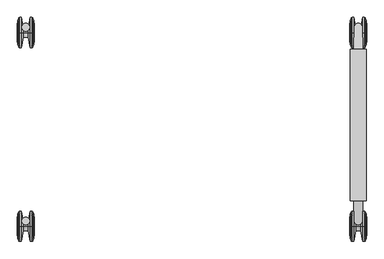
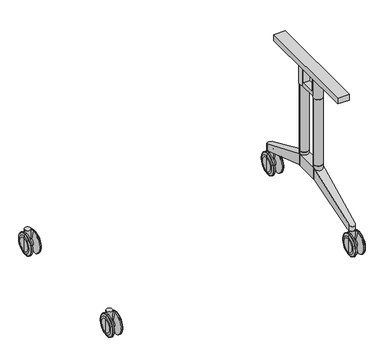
"""IFC4 building model written with IfcOpenShell, lengths in millimetres: furniture geometry, Furniture_Wilkhahn_614-00_TimetableShift : TIMETABLE SHIFT 614/00 1600L x 0800W."""

from ifc_helpers import new_model, si_unit, point, frame, frame_2d, origin, place, context, project, spatial, polyline, circle_curve, ellipse_curve, trimmed, segment, composite_curve, outline, extrude, source, transform, mapped, element, save
from ifc_brep_helpers import plane_surface, cylinder_surface, revolved_surface, advanced_brep


def furniture_4abeb202(model_context):
    return source(origin(), model_context, "Body", "SolidModel", [
        advanced_brep(
        [(577.500346, 204.1135107, 49.9999988), (577.500346, 204.1135107, 19.8683152), (577.500346, 204.1135107, 80.1316828), (522.5003238, 204.1135107, 19.8683152), (522.5003238, 204.1135107, 49.9999988), (522.5003238, 204.1135107, 80.1316828), (526.8165382, 204.1135107, 2.051318), (524.0398166, 204.1135107, 10.381507), (524.0398166, 204.1135107, 89.6184911), (526.8165382, 204.1135107, 97.9486801), (534.500318, 204.1135107, -1.2e-06), (529.6625889, 204.1135107, -1.2e-06), (529.6625889, 204.1135107, 99.9999992), (534.500318, 204.1135107, 99.9999992), (542.5003021, 204.1135107, 35.0000003), (542.5003021, 204.1135107, 64.9999978), (557.5003676, 204.1135107, 35.0000003), (557.5003676, 204.1135107, 64.9999978), (565.5003517, 204.1135107, -1.2e-06), (565.5003517, 204.1135107, 99.9999992), (570.3380808, 204.1135107, -1.2e-06), (570.3380808, 204.1135107, 99.9999992), (575.9608532, 204.1135107, 10.381507), (573.1841316, 204.1135107, 2.051318), (573.1841316, 204.1135107, 97.9486801), (575.9608532, 204.1135107, 89.6184911)],
        [
            (0, 1),
            (1, 2, circle_curve(frame((577.500346, 204.1135107, 49.999999), z_axis=(1.0, 0.0, 0.0), x_axis=(0.0, 0.0, 1.0)), 30.1316838)),
            (2, 0),
            (2, 1, circle_curve(frame((577.500346, 204.1135107, 49.999999), z_axis=(1.0, 0.0, 0.0), x_axis=(0.0, 0.0, 1.0)), 30.1316838)),
            (3, 4),
            (4, 5),
            (5, 3, circle_curve(frame((522.5003238, 204.1135107, 49.999999), z_axis=(-1.0, 0.0, 0.0), x_axis=(0.0, 0.0, 1.0)), 30.1316838)),
            (3, 5, circle_curve(frame((522.5003238, 204.1135107, 49.999999), z_axis=(-1.0, 0.0, 0.0), x_axis=(0.0, 0.0, 1.0)), 30.1316838)),
            (6, 7),
            (7, 8, circle_curve(frame((524.0398166, 204.1135107, 49.999999), z_axis=(1.0, 0.0, 0.0), x_axis=(0.0, 0.0, 1.0)), 39.618492)),
            (8, 9),
            (9, 6, circle_curve(frame((526.8165382, 204.1135107, 49.999999), z_axis=(-1.0, 0.0, 0.0), x_axis=(0.0, 0.0, 1.0)), 47.948681)),
            (8, 7, circle_curve(frame((524.0398166, 204.1135107, 49.999999), z_axis=(1.0, 0.0, 0.0), x_axis=(0.0, 0.0, 1.0)), 39.618492)),
            (6, 9, circle_curve(frame((526.8165382, 204.1135107, 49.999999), z_axis=(-1.0, 0.0, 0.0), x_axis=(0.0, 0.0, 1.0)), 47.948681)),
            (10, 11),
            (11, 12, circle_curve(frame((529.6625889, 204.1135107, 49.999999), z_axis=(1.0, 0.0, 0.0), x_axis=(0.0, 0.0, 1.0)), 50.0000002)),
            (12, 13),
            (13, 10, circle_curve(frame((534.500318, 204.1135107, 49.999999), z_axis=(-1.0, 0.0, 0.0), x_axis=(0.0, 0.0, 1.0)), 50.0000002)),
            (12, 11, circle_curve(frame((529.6625889, 204.1135107, 49.999999), z_axis=(1.0, 0.0, 0.0), x_axis=(0.0, 0.0, 1.0)), 50.0000002)),
            (10, 13, circle_curve(frame((534.500318, 204.1135107, 49.999999), z_axis=(-1.0, 0.0, 0.0), x_axis=(0.0, 0.0, 1.0)), 50.0000002)),
            (14, 10),
            (13, 15),
            (15, 14, circle_curve(frame((542.5003021, 204.1135107, 49.999999), z_axis=(-1.0, 0.0, 0.0), x_axis=(0.0, 0.0, 1.0)), 14.9999987)),
            (14, 15, circle_curve(frame((542.5003021, 204.1135107, 49.999999), z_axis=(-1.0, 0.0, 0.0), x_axis=(0.0, 0.0, 1.0)), 14.9999987)),
            (16, 14),
            (15, 17),
            (17, 16, circle_curve(frame((557.5003676, 204.1135107, 49.999999), z_axis=(-1.0, 0.0, 0.0), x_axis=(0.0, 0.0, 1.0)), 14.9999987)),
            (16, 17, circle_curve(frame((557.5003676, 204.1135107, 49.999999), z_axis=(-1.0, 0.0, 0.0), x_axis=(0.0, 0.0, 1.0)), 14.9999987)),
            (18, 16),
            (17, 19),
            (19, 18, circle_curve(frame((565.5003517, 204.1135107, 49.999999), z_axis=(-1.0, 0.0, 0.0), x_axis=(0.0, 0.0, 1.0)), 50.0000002)),
            (18, 19, circle_curve(frame((565.5003517, 204.1135107, 49.999999), z_axis=(-1.0, 0.0, 0.0), x_axis=(0.0, 0.0, 1.0)), 50.0000002)),
            (20, 18),
            (19, 21),
            (21, 20, circle_curve(frame((570.3380808, 204.1135107, 49.999999), z_axis=(-1.0, 0.0, 0.0), x_axis=(0.0, 0.0, 1.0)), 50.0000002)),
            (20, 21, circle_curve(frame((570.3380808, 204.1135107, 49.999999), z_axis=(-1.0, 0.0, 0.0), x_axis=(0.0, 0.0, 1.0)), 50.0000002)),
            (22, 23),
            (23, 24, circle_curve(frame((573.1841316, 204.1135107, 49.999999), z_axis=(1.0, 0.0, 0.0), x_axis=(0.0, 0.0, 1.0)), 47.948681)),
            (24, 25),
            (25, 22, circle_curve(frame((575.9608532, 204.1135107, 49.999999), z_axis=(-1.0, 0.0, 0.0), x_axis=(0.0, 0.0, 1.0)), 39.618492)),
            (24, 23, circle_curve(frame((573.1841316, 204.1135107, 49.999999), z_axis=(1.0, 0.0, 0.0), x_axis=(0.0, 0.0, 1.0)), 47.948681)),
            (22, 25, circle_curve(frame((575.9608532, 204.1135107, 49.999999), z_axis=(-1.0, 0.0, 0.0), x_axis=(0.0, 0.0, 1.0)), 39.618492)),
            (7, 3, circle_curve(frame((552.5003238, 204.1135107, 19.8683152), z_axis=(0.0, 1.0000000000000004, 0.0), x_axis=(-1.0000000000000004, 0.0, 0.0)), 30.0)),
            (5, 8, circle_curve(frame((552.5003238, 204.1135107, 80.1316828), z_axis=(0.0, 1.0000000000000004, 0.0), x_axis=(-1.0000000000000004, 0.0, 0.0)), 30.0)),
            (11, 6, circle_curve(frame((529.6625889, 204.1135107, 2.9999988), z_axis=(0.0, 1.0000000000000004, 0.0), x_axis=(-1.0000000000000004, 0.0, 0.0)), 3.0)),
            (9, 12, circle_curve(frame((529.6625889, 204.1135107, 96.9999992), z_axis=(0.0, 1.0000000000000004, 0.0), x_axis=(-1.0000000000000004, 0.0, 0.0)), 3.0)),
            (23, 20, circle_curve(frame((570.3380808, 204.1135107, 2.9999988), z_axis=(0.0, 1.0000000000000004, 0.0), x_axis=(-1.0000000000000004, 0.0, 0.0)), 3.0)),
            (21, 24, circle_curve(frame((570.3380808, 204.1135107, 96.9999992), z_axis=(0.0, 1.0000000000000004, 0.0), x_axis=(-1.0000000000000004, 0.0, 0.0)), 3.0)),
            (1, 22, circle_curve(frame((547.500346, 204.1135107, 19.8683152), z_axis=(0.0, 1.0000000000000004, 0.0), x_axis=(-1.0000000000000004, 0.0, 0.0)), 30.0)),
            (25, 2, circle_curve(frame((547.500346, 204.1135107, 80.1316828), z_axis=(0.0, 1.0000000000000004, 0.0), x_axis=(-1.0000000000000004, 0.0, 0.0)), 30.0)),
        ],
        [
            plane_surface(frame((577.500346, 204.1135107, 49.999999), z_axis=(1.0, 0.0, 0.0), x_axis=(0.0, 0.0, 1.0))),
            plane_surface(frame((522.5003238, 204.1135107, 49.999999), z_axis=(-1.0, 0.0, 0.0), x_axis=(0.0, 0.0, 1.0))),
            revolved_surface(polyline([(524.0398166, 204.1135107, 89.6184911), (526.8165382, 204.1135107, 97.9486801)]), (589.0660385, 204.1135107, 49.999999), (1.0000000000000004, 0.0, 0.0)),
            cylinder_surface(frame((589.0660385, 204.1135107, 49.999999), z_axis=(1.0000000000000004, 0.0, 0.0), x_axis=(0.0, 0.0, 1.0)), 50.0000002),
            revolved_surface(polyline([(534.500318, 204.1135107, 99.9999992), (542.5003021, 204.1135107, 64.9999978)]), (589.0660385, 204.1135107, 49.999999), (1.0000000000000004, 0.0, 0.0)),
            cylinder_surface(frame((589.0660385, 204.1135107, 49.999999), z_axis=(1.0000000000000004, 0.0, 0.0), x_axis=(0.0, 0.0, 1.0)), 14.9999987),
            revolved_surface(polyline([(557.5003676, 204.1135107, 64.9999978), (565.5003517, 204.1135107, 99.9999992)]), (589.0660385, 204.1135107, 49.999999), (1.0000000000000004, 0.0, 0.0)),
            revolved_surface(polyline([(573.1841316, 204.1135107, 97.9486801), (575.9608532, 204.1135107, 89.6184911)]), (589.0660385, 204.1135107, 49.999999), (1.0000000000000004, 0.0, 0.0)),
            revolved_surface(trimmed(ellipse_curve(frame((552.5003238, 204.1135107, 80.1316828), z_axis=(0.0, 1.0000000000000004, 0.0), x_axis=(-1.0000000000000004, 0.0, 0.0)), 30.0, 30.0), [point((522.5003238, 204.1135107, 80.1316828))], [point((524.0398166, 204.1135107, 89.6184911))], True, "CARTESIAN"), (589.0660385, 204.1135107, 49.999999), (1.0000000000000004, 0.0, 0.0)),
            revolved_surface(trimmed(ellipse_curve(frame((529.6625889, 204.1135107, 96.9999992), z_axis=(0.0, 1.0000000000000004, 0.0), x_axis=(-1.0000000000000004, 0.0, 0.0)), 3.0, 3.0), [point((526.8165382, 204.1135107, 97.9486801))], [point((529.6625889, 204.1135107, 99.9999992))], True, "CARTESIAN"), (589.0660385, 204.1135107, 49.999999), (1.0000000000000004, 0.0, 0.0)),
            revolved_surface(trimmed(ellipse_curve(frame((570.3380808, 204.1135107, 96.9999992), z_axis=(0.0, 1.0000000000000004, 0.0), x_axis=(-1.0000000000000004, 0.0, 0.0)), 3.0, 3.0), [point((570.3380808, 204.1135107, 99.9999992))], [point((573.1841316, 204.1135107, 97.9486801))], True, "CARTESIAN"), (589.0660385, 204.1135107, 49.999999), (1.0000000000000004, 0.0, 0.0)),
            revolved_surface(trimmed(ellipse_curve(frame((547.500346, 204.1135107, 80.1316828), z_axis=(0.0, 1.0000000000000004, 0.0), x_axis=(-1.0000000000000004, 0.0, 0.0)), 30.0, 30.0), [point((575.9608532, 204.1135107, 89.6184911))], [point((577.500346, 204.1135107, 80.1316828))], True, "CARTESIAN"), (589.0660385, 204.1135107, 49.999999), (1.0000000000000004, 0.0, 0.0)),
        ],
        [
            (0, [[1, 2, 3]]),
            (0, [[-3, 4, -1]]),
            (1, [[5, 6, 7]]),
            (1, [[-6, -5, 8]]),
            (2, [[9, 10, 11, 12]]),
            (2, [[-11, 13, -9, 14]]),
            (3, [[15, 16, 17, 18]]),
            (3, [[-17, 19, -15, 20]]),
            (4, [[21, -18, 22, 23]]),
            (4, [[-22, -20, -21, 24]]),
            (5, [[25, -23, 26, 27]]),
            (5, [[-26, -24, -25, 28]]),
            (6, [[29, -27, 30, 31]]),
            (6, [[-30, -28, -29, 32]]),
            (3, [[33, -31, 34, 35]]),
            (3, [[-34, -32, -33, 36]]),
            (7, [[37, 38, 39, 40]]),
            (7, [[-39, 41, -37, 42]]),
            (8, [[43, -7, 44, -10]]),
            (8, [[-44, -8, -43, -13]]),
            (9, [[45, -12, 46, -16]]),
            (9, [[-46, -14, -45, -19]]),
            (10, [[47, -35, 48, -38]]),
            (10, [[-48, -36, -47, -41]]),
            (11, [[49, -40, 50, -2]]),
            (11, [[-50, -42, -49, -4]]),
        ],
    ),
        extrude(outline(composite_curve([segment(trimmed(circle_curve(frame_2d((550.0003349, 221.5135103)), 13.1), [point((563.1003349, 221.5135103))], [point((536.9003349, 221.5135103))], False, "CARTESIAN"), True, "CONTINUOUS"), segment(trimmed(circle_curve(frame_2d((550.0003349, 221.5135103)), 13.1), [point((536.9003349, 221.5135103))], [point((563.1003349, 221.5135103))], False, "CARTESIAN"), True, "CONTINUOUS")], self_intersect=False)), frame((0.0, 0.0, 50.0), z_axis=(0.0, 0.0, 1.0), x_axis=(1.0, 0.0, 0.0)), (0.0, 0.0, 1.0), 55.0),
        advanced_brep(
        [(522.5003238, -436.9185854, 49.9999992), (522.5003238, -436.9185854, 80.1316828), (522.5003238, -436.9185854, 19.8683152), (577.500346, -436.9185854, 19.8683152), (577.500346, -436.9185854, 80.1316828), (577.500346, -436.9185854, 49.9999992), (573.1841316, -436.9185854, 2.051318), (573.1841316, -436.9185854, 97.9486801), (575.9608532, -436.9185854, 89.6184911), (575.9608532, -436.9185854, 10.381507), (565.5003517, -436.9185854, -1.2e-06), (565.5003517, -436.9185854, 99.9999992), (570.3380808, -436.9185854, 99.9999992), (570.3380808, -436.9185854, -1.2e-06), (557.5003676, -436.9185854, 35.0000003), (557.5003676, -436.9185854, 64.9999978), (542.5003021, -436.9185854, 35.0000003), (542.5003021, -436.9185854, 64.9999978), (534.500318, -436.9185854, -1.2e-06), (534.500318, -436.9185854, 99.9999992), (529.6625889, -436.9185854, -1.2e-06), (529.6625889, -436.9185854, 99.9999992), (524.0398166, -436.9185854, 10.381507), (524.0398166, -436.9185854, 89.6184911), (526.8165382, -436.9185854, 97.9486801), (526.8165382, -436.9185854, 2.051318)],
        [
            (0, 1),
            (1, 2, circle_curve(frame((522.5003238, -436.9185854, 49.999999), z_axis=(-1.0, 0.0, 0.0), x_axis=(0.0, 0.0, 1.0)), 30.1316838)),
            (2, 0),
            (2, 1, circle_curve(frame((522.5003238, -436.9185854, 49.999999), z_axis=(-1.0, 0.0, 0.0), x_axis=(0.0, 0.0, 1.0)), 30.1316838)),
            (3, 4, circle_curve(frame((577.500346, -436.9185854, 49.999999), z_axis=(1.0, 0.0, 0.0), x_axis=(0.0, 0.0, 1.0)), 30.1316838)),
            (4, 5),
            (5, 3),
            (4, 3, circle_curve(frame((577.500346, -436.9185854, 49.999999), z_axis=(1.0, 0.0, 0.0), x_axis=(0.0, 0.0, 1.0)), 30.1316838)),
            (6, 7, circle_curve(frame((573.1841316, -436.9185854, 49.999999), z_axis=(1.0, 0.0, 0.0), x_axis=(0.0, 0.0, 1.0)), 47.948681)),
            (7, 8),
            (8, 9, circle_curve(frame((575.9608532, -436.9185854, 49.999999), z_axis=(-1.0, 0.0, 0.0), x_axis=(0.0, 0.0, 1.0)), 39.618492)),
            (9, 6),
            (7, 6, circle_curve(frame((573.1841316, -436.9185854, 49.999999), z_axis=(1.0, 0.0, 0.0), x_axis=(0.0, 0.0, 1.0)), 47.948681)),
            (9, 8, circle_curve(frame((575.9608532, -436.9185854, 49.999999), z_axis=(-1.0, 0.0, 0.0), x_axis=(0.0, 0.0, 1.0)), 39.618492)),
            (10, 11, circle_curve(frame((565.5003517, -436.9185854, 49.999999), z_axis=(1.0, 0.0, 0.0), x_axis=(0.0, 0.0, 1.0)), 50.0000002)),
            (11, 12),
            (12, 13, circle_curve(frame((570.3380808, -436.9185854, 49.999999), z_axis=(-1.0, 0.0, 0.0), x_axis=(0.0, 0.0, 1.0)), 50.0000002)),
            (13, 10),
            (11, 10, circle_curve(frame((565.5003517, -436.9185854, 49.999999), z_axis=(1.0, 0.0, 0.0), x_axis=(0.0, 0.0, 1.0)), 50.0000002)),
            (13, 12, circle_curve(frame((570.3380808, -436.9185854, 49.999999), z_axis=(-1.0, 0.0, 0.0), x_axis=(0.0, 0.0, 1.0)), 50.0000002)),
            (14, 15, circle_curve(frame((557.5003676, -436.9185854, 49.999999), z_axis=(1.0, 0.0, 0.0), x_axis=(0.0, 0.0, 1.0)), 14.9999987)),
            (15, 11),
            (10, 14),
            (15, 14, circle_curve(frame((557.5003676, -436.9185854, 49.999999), z_axis=(1.0, 0.0, 0.0), x_axis=(0.0, 0.0, 1.0)), 14.9999987)),
            (16, 17, circle_curve(frame((542.5003021, -436.9185854, 49.999999), z_axis=(1.0, 0.0, 0.0), x_axis=(0.0, 0.0, 1.0)), 14.9999987)),
            (17, 15),
            (14, 16),
            (17, 16, circle_curve(frame((542.5003021, -436.9185854, 49.999999), z_axis=(1.0, 0.0, 0.0), x_axis=(0.0, 0.0, 1.0)), 14.9999987)),
            (18, 19, circle_curve(frame((534.500318, -436.9185854, 49.999999), z_axis=(1.0, 0.0, 0.0), x_axis=(0.0, 0.0, 1.0)), 50.0000002)),
            (19, 17),
            (16, 18),
            (19, 18, circle_curve(frame((534.500318, -436.9185854, 49.999999), z_axis=(1.0, 0.0, 0.0), x_axis=(0.0, 0.0, 1.0)), 50.0000002)),
            (20, 21, circle_curve(frame((529.6625889, -436.9185854, 49.999999), z_axis=(1.0, 0.0, 0.0), x_axis=(0.0, 0.0, 1.0)), 50.0000002)),
            (21, 19),
            (18, 20),
            (21, 20, circle_curve(frame((529.6625889, -436.9185854, 49.999999), z_axis=(1.0, 0.0, 0.0), x_axis=(0.0, 0.0, 1.0)), 50.0000002)),
            (22, 23, circle_curve(frame((524.0398166, -436.9185854, 49.999999), z_axis=(1.0, 0.0, 0.0), x_axis=(0.0, 0.0, 1.0)), 39.618492)),
            (23, 24),
            (24, 25, circle_curve(frame((526.8165382, -436.9185854, 49.999999), z_axis=(-1.0, 0.0, 0.0), x_axis=(0.0, 0.0, 1.0)), 47.948681)),
            (25, 22),
            (23, 22, circle_curve(frame((524.0398166, -436.9185854, 49.999999), z_axis=(1.0, 0.0, 0.0), x_axis=(0.0, 0.0, 1.0)), 39.618492)),
            (25, 24, circle_curve(frame((526.8165382, -436.9185854, 49.999999), z_axis=(-1.0, 0.0, 0.0), x_axis=(0.0, 0.0, 1.0)), 47.948681)),
            (8, 4, circle_curve(frame((547.500346, -436.9185854, 80.1316828), z_axis=(0.0, 1.0, 0.0), x_axis=(1.0, 0.0, 0.0)), 30.0)),
            (3, 9, circle_curve(frame((547.500346, -436.9185854, 19.8683152), z_axis=(0.0, 1.0, 0.0), x_axis=(1.0, 0.0, 0.0)), 30.0)),
            (12, 7, circle_curve(frame((570.3380808, -436.9185854, 96.9999992), z_axis=(0.0, 1.0, 0.0), x_axis=(1.0, 0.0, 0.0)), 3.0)),
            (6, 13, circle_curve(frame((570.3380808, -436.9185854, 2.9999988), z_axis=(0.0, 1.0, 0.0), x_axis=(1.0, 0.0, 0.0)), 3.0)),
            (24, 21, circle_curve(frame((529.6625889, -436.9185854, 96.9999992), z_axis=(0.0, 1.0, 0.0), x_axis=(1.0, 0.0, 0.0)), 3.0)),
            (20, 25, circle_curve(frame((529.6625889, -436.9185854, 2.9999988), z_axis=(0.0, 1.0, 0.0), x_axis=(1.0, 0.0, 0.0)), 3.0)),
            (1, 23, circle_curve(frame((552.5003238, -436.9185854, 80.1316828), z_axis=(0.0, 1.0, 0.0), x_axis=(1.0, 0.0, 0.0)), 30.0)),
            (22, 2, circle_curve(frame((552.5003238, -436.9185854, 19.8683152), z_axis=(0.0, 1.0, 0.0), x_axis=(1.0, 0.0, 0.0)), 30.0)),
        ],
        [
            plane_surface(frame((522.5003238, -436.9185854, 49.999999), z_axis=(-1.0, 0.0, 0.0), x_axis=(0.0, 0.0, 1.0))),
            plane_surface(frame((577.500346, -436.9185854, 49.999999), z_axis=(1.0, 0.0, 0.0), x_axis=(0.0, 0.0, 1.0))),
            revolved_surface(polyline([(575.9608532, -436.9185854, 89.6184911), (573.1841316, -436.9185854, 97.9486801)]), (510.9346312, -436.9185854, 49.999999), (-1.0, 0.0, 0.0)),
            cylinder_surface(frame((510.9346312, -436.9185854, 49.999999), z_axis=(-1.0, 0.0, 0.0), x_axis=(0.0, 0.0, 1.0)), 50.0000002),
            revolved_surface(polyline([(565.5003517, -436.9185854, 99.9999992), (557.5003676, -436.9185854, 64.9999978)]), (510.9346312, -436.9185854, 49.999999), (-1.0, 0.0, 0.0)),
            cylinder_surface(frame((510.9346312, -436.9185854, 49.999999), z_axis=(-1.0, 0.0, 0.0), x_axis=(0.0, 0.0, 1.0)), 14.9999987),
            revolved_surface(polyline([(542.5003021, -436.9185854, 64.9999978), (534.500318, -436.9185854, 99.9999992)]), (510.9346312, -436.9185854, 49.999999), (-1.0, 0.0, 0.0)),
            revolved_surface(polyline([(526.8165382, -436.9185854, 97.9486801), (524.0398166, -436.9185854, 89.6184911)]), (510.9346312, -436.9185854, 49.999999), (-1.0, 0.0, 0.0)),
            revolved_surface(trimmed(ellipse_curve(frame((547.500346, -436.9185854, 80.1316828), z_axis=(0.0, -1.0, 0.0), x_axis=(1.0, 0.0, 0.0)), 30.0, 30.0), [point((577.500346, -436.9185854, 80.1316828))], [point((575.9608532, -436.9185854, 89.6184911))], True, "CARTESIAN"), (510.9346312, -436.9185854, 49.999999), (-1.0, 0.0, 0.0)),
            revolved_surface(trimmed(ellipse_curve(frame((570.3380808, -436.9185854, 96.9999992), z_axis=(0.0, -1.0, 0.0), x_axis=(1.0, 0.0, 0.0)), 3.0, 3.0), [point((573.1841316, -436.9185854, 97.9486801))], [point((570.3380808, -436.9185854, 99.9999992))], True, "CARTESIAN"), (510.9346312, -436.9185854, 49.999999), (-1.0, 0.0, 0.0)),
            revolved_surface(trimmed(ellipse_curve(frame((529.6625889, -436.9185854, 96.9999992), z_axis=(0.0, -1.0, 0.0), x_axis=(1.0, 0.0, 0.0)), 3.0, 3.0), [point((529.6625889, -436.9185854, 99.9999992))], [point((526.8165382, -436.9185854, 97.9486801))], True, "CARTESIAN"), (510.9346312, -436.9185854, 49.999999), (-1.0, 0.0, 0.0)),
            revolved_surface(trimmed(ellipse_curve(frame((552.5003238, -436.9185854, 80.1316828), z_axis=(0.0, -1.0, 0.0), x_axis=(1.0, 0.0, 0.0)), 30.0, 30.0), [point((524.0398166, -436.9185854, 89.6184911))], [point((522.5003238, -436.9185854, 80.1316828))], True, "CARTESIAN"), (510.9346312, -436.9185854, 49.999999), (-1.0, 0.0, 0.0)),
        ],
        [
            (0, [[1, 2, 3]]),
            (0, [[-3, 4, -1]]),
            (1, [[5, 6, 7]]),
            (1, [[8, -7, -6]]),
            (2, [[9, 10, 11, 12]]),
            (2, [[13, -12, 14, -10]]),
            (3, [[15, 16, 17, 18]]),
            (3, [[19, -18, 20, -16]]),
            (4, [[21, 22, -15, 23]]),
            (4, [[24, -23, -19, -22]]),
            (5, [[25, 26, -21, 27]]),
            (5, [[28, -27, -24, -26]]),
            (6, [[29, 30, -25, 31]]),
            (6, [[32, -31, -28, -30]]),
            (3, [[33, 34, -29, 35]]),
            (3, [[36, -35, -32, -34]]),
            (7, [[37, 38, 39, 40]]),
            (7, [[41, -40, 42, -38]]),
            (8, [[-11, 43, -5, 44]]),
            (8, [[-14, -44, -8, -43]]),
            (9, [[-17, 45, -9, 46]]),
            (9, [[-20, -46, -13, -45]]),
            (10, [[-39, 47, -33, 48]]),
            (10, [[-42, -48, -36, -47]]),
            (11, [[-2, 49, -37, 50]]),
            (11, [[-4, -50, -41, -49]]),
        ],
    ),
        extrude(outline(composite_curve([segment(trimmed(circle_curve(frame_2d((550.0003349, -419.5185858)), 13.1), [point((536.9003349, -419.5185858))], [point((563.1003349, -419.5185858))], False, "CARTESIAN"), True, "CONTINUOUS"), segment(trimmed(circle_curve(frame_2d((550.0003349, -419.5185858)), 13.1), [point((563.1003349, -419.5185858))], [point((536.9003349, -419.5185858))], False, "CARTESIAN"), True, "CONTINUOUS")], self_intersect=False)), frame((0.0, 0.0, 50.0), z_axis=(0.0, 0.0, 1.0), x_axis=(1.0, 0.0, 0.0)), (0.0, 0.0, 1.0), 55.0),
        extrude(outline(composite_curve([segment(trimmed(circle_curve(frame_2d((550.0, -154.0488451)), 20.0), [point((530.0, -154.0488451))], [point((570.0, -154.0488451))], False, "CARTESIAN"), True, "CONTINUOUS"), segment(trimmed(circle_curve(frame_2d((550.0, -154.0488451)), 20.0), [point((570.0, -154.0488451))], [point((530.0, -154.0488451))], False, "CARTESIAN"), True, "CONTINUOUS")], self_intersect=False)), frame((0.0, 0.0, 193.3080085), z_axis=(0.0, 0.0, 1.0), x_axis=(1.0, 0.0, 0.0)), (0.0, 0.0, 1.0), 68.8536941),
        extrude(outline(composite_curve([segment(trimmed(circle_curve(frame_2d((550.0, -44.0488461)), 20.0), [point((530.0, -44.0488461))], [point((570.0, -44.0488461))], False, "CARTESIAN"), True, "CONTINUOUS"), segment(trimmed(circle_curve(frame_2d((550.0, -44.0488461)), 20.0), [point((570.0, -44.0488461))], [point((530.0, -44.0488461))], False, "CARTESIAN"), True, "CONTINUOUS")], self_intersect=False)), frame((0.0, 0.0, 193.3080085), z_axis=(0.0, 0.0, 1.0), x_axis=(1.0, 0.0, 0.0)), (0.0, 0.0, 1.0), 68.8536941),
        extrude(outline(composite_curve([segment(trimmed(circle_curve(frame_2d((550.0, -154.0488451)), 20.0), [point((530.0, -154.0488451))], [point((570.0, -154.0488451))], False, "CARTESIAN"), True, "CONTINUOUS"), segment(trimmed(circle_curve(frame_2d((550.0, -154.0488451)), 20.0), [point((570.0, -154.0488451))], [point((530.0, -154.0488451))], False, "CARTESIAN"), True, "CONTINUOUS")], self_intersect=False)), frame((0.0, 0.0, 262.1617027), z_axis=(0.0, 0.0, 1.0), x_axis=(1.0, 0.0, 0.0)), (0.0, 0.0, 1.0), 317.8382973),
        extrude(outline(composite_curve([segment(trimmed(circle_curve(frame_2d((550.0, -44.0488461)), 20.0), [point((530.0, -44.0488461))], [point((570.0, -44.0488461))], False, "CARTESIAN"), True, "CONTINUOUS"), segment(trimmed(circle_curve(frame_2d((550.0, -44.0488461)), 20.0), [point((570.0, -44.0488461))], [point((530.0, -44.0488461))], False, "CARTESIAN"), True, "CONTINUOUS")], self_intersect=False)), frame((0.0, 0.0, 262.1617027), z_axis=(0.0, 0.0, 1.0), x_axis=(1.0, 0.0, 0.0)), (0.0, 0.0, 1.0), 317.8382973),
        extrude(outline(polyline([(576.0000118, 147.9511612), (576.0000118, -352.0488426), (523.9999882, -352.0488426), (523.9999882, 147.9511612), (576.0000118, 147.9511612)])), frame((0.0, 0.0, 676.0000168), z_axis=(0.0, 0.0, 1.0), x_axis=(1.0, 0.0, 0.0)), (0.0, 0.0, 1.0), 27.9999624),
        advanced_brep(
        [(535.0001238, -140.8200278, 676.0000168), (565.0001095, -140.8201331, 676.0000168), (565.0001095, -134.0488456, 676.0000168), (535.0001238, -134.0488456, 676.0000168), (565.0001095, -57.2775581, 676.0000168), (535.0001238, -57.2776634, 676.0000168), (535.0001238, -64.0488456, 676.0000168), (565.0001095, -64.0488456, 676.0000168), (535.0001238, -57.2776634, 580.0), (565.0001095, -57.2775581, 580.0), (565.0001095, -140.8201331, 580.0), (535.0001238, -140.8200278, 580.0), (535.0001238, -134.0488456, 598.0000176), (535.0001238, -64.0488456, 598.0000176), (565.0001095, -64.0488456, 598.0000176), (565.0001095, -134.0488456, 598.0000176)],
        [
            (0, 1, circle_curve(frame((550.0000702, -154.0488451, 676.0000168), z_axis=(0.0, 0.0, 1.0), x_axis=(1.0, 0.0, 0.0)), 20.0)),
            (1, 2),
            (2, 3),
            (3, 0),
            (4, 5, circle_curve(frame((550.0000702, -44.0488461, 676.0000168), z_axis=(0.0, 0.0, 1.0), x_axis=(1.0, 0.0, 0.0)), 20.0)),
            (5, 6),
            (6, 7),
            (7, 4),
            (8, 9, circle_curve(frame((550.0000702, -44.0488461, 580.0), z_axis=(0.0, 0.0, -1.0), x_axis=(1.0, 0.0, 0.0)), 20.0)),
            (9, 10),
            (10, 11, circle_curve(frame((550.0000702, -154.0488451, 580.0), z_axis=(0.0, 0.0, -1.0), x_axis=(1.0, 0.0, 0.0)), 20.0)),
            (11, 8),
            (11, 0),
            (3, 12),
            (12, 13),
            (13, 6),
            (5, 8),
            (10, 1),
            (9, 4),
            (7, 14),
            (14, 15),
            (15, 2),
            (15, 12),
            (14, 13),
        ],
        [
            plane_surface(frame((535.0001238, -140.8200278, 676.0000168), z_axis=(0.0, 0.0, 1.0), x_axis=(0.0, -1.0, 0.0))),
            plane_surface(frame((535.0001238, -140.8200278, 580.0), z_axis=(0.0, 0.0, -1.0), x_axis=(0.0, 1.0, 0.0))),
            plane_surface(frame((535.0001238, -57.2776634, 676.0000168), z_axis=(-1.0, 0.0, 0.0), x_axis=(0.0, 0.0, -1.0))),
            cylinder_surface(frame((550.0000702, -154.0488451, 580.0), z_axis=(0.0, 0.0, 1.0), x_axis=(1.0, 0.0, 0.0)), 20.0),
            plane_surface(frame((565.0001095, -140.8201331, 676.0000168), z_axis=(1.0, 0.0, 0.0), x_axis=(0.0, 0.0, -1.0))),
            cylinder_surface(frame((550.0000702, -44.0488461, 580.0), z_axis=(0.0, 0.0, 1.0), x_axis=(1.0, 0.0, 0.0)), 20.0),
            plane_surface(frame((565.0001095, -134.0488456, 676.0000168), z_axis=(0.0, 1.0, 0.0), x_axis=(-1.0, 0.0, 0.0))),
            plane_surface(frame((565.0001095, -134.0488456, 598.0000176), z_axis=(0.0, 0.0, 1.0), x_axis=(-1.0, 0.0, 0.0))),
            plane_surface(frame((565.0001095, -64.0488456, 598.0000176), z_axis=(0.0, -1.0, 0.0), x_axis=(-1.0, 0.0, 0.0))),
        ],
        [
            (0, [[1, 2, 3, 4]]),
            (0, [[5, 6, 7, 8]]),
            (1, [[9, 10, 11, 12]]),
            (2, [[-12, 13, -4, 14, 15, 16, -6, 17]]),
            (3, [[-1, -13, -11, 18]]),
            (4, [[-10, 19, -8, 20, 21, 22, -2, -18]]),
            (5, [[-5, -19, -9, -17]]),
            (6, [[23, -14, -3, -22]]),
            (7, [[-23, -21, 24, -15]]),
            (8, [[-24, -20, -7, -16]]),
        ],
    ),
        advanced_brep(
        [(563.4728951, 208.4135103, 105.0), (536.527103, 208.4135103, 105.0), (536.8737706, 221.8222582, 105.0), (563.1262294, 221.8222564, 105.0), (536.8737706, 221.8222582, 133.4205559), (529.9999818, -44.0488461, 248.3080085), (569.9999818, -44.0488461, 248.3080085), (563.1262294, 221.8222564, 133.4205567), (569.7999588, -36.3121196, 193.3080085), (530.2000059, -36.3121196, 193.3080085), (563.1262294, -419.9199475, 133.4205567), (569.9999818, -154.0488451, 248.3080085), (529.9999818, -154.0488451, 248.3080085), (536.8737706, -419.9199493, 133.4205559), (563.1262294, -419.9199475, 105.0), (563.4728951, -406.5112014, 105.0), (569.7999588, -161.7855715, 193.3080085), (569.9999818, -154.0488451, 193.3080085), (536.8737706, -419.9199493, 105.0), (529.9999818, -154.0488451, 193.3080085), (530.2000059, -161.7855715, 193.3080085), (536.527103, -406.5112014, 105.0), (529.9999818, -44.0488461, 193.3080085), (569.9999818, -44.0488461, 193.3080085)],
        [
            (0, 1),
            (1, 2),
            (2, 3, circle_curve(frame((550.0, 221.4828948, 105.0), z_axis=(0.0, 0.0, -1.0), x_axis=(1.0, 0.0, 0.0)), 13.1306156)),
            (3, 0),
            (4, 5),
            (5, 6),
            (6, 7),
            (7, 4, ellipse_curve(frame((550.0, 221.4828948, 133.5672007), z_axis=(0.0, 0.3966672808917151, 0.9179624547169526), x_axis=(0.0, 0.9179624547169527, -0.39666728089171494)), 14.3040878, 13.1306156)),
            (0, 8),
            (8, 9),
            (9, 1),
            (10, 11),
            (11, 12),
            (12, 13),
            (13, 10, ellipse_curve(frame((550.0, -419.5805859, 133.5672007), z_axis=(0.0, -0.3966672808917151, 0.9179624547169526), x_axis=(0.0, -0.9179624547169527, -0.39666728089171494)), 14.3040878, 13.1306156)),
            (10, 14),
            (14, 15),
            (15, 16),
            (16, 17),
            (17, 11),
            (13, 18),
            (18, 14, circle_curve(frame((550.0, -419.5805859, 105.0), z_axis=(0.0, 0.0, 1.0), x_axis=(1.0, 0.0, 0.0)), 13.1306156)),
            (12, 19),
            (19, 20),
            (20, 21),
            (21, 18),
            (4, 2),
            (9, 22),
            (22, 5),
            (7, 3),
            (6, 23),
            (23, 8),
            (21, 15),
            (20, 16),
            (11, 6),
            (5, 12),
            (22, 19),
            (17, 23),
        ],
        [
            plane_surface(frame((571.3794585, 208.4135103, 105.0), z_axis=(0.0, 0.0, -1.0), x_axis=(-1.0, 0.0, 0.0))),
            plane_surface(frame((571.3794585, 235.9511544, 127.3152182), z_axis=(0.0, 0.3966672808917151, 0.9179624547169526), x_axis=(-1.0, 0.0, 0.0))),
            plane_surface(frame((571.3794585, -36.3121196, 193.3080085), z_axis=(0.0, -0.3394229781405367, -0.9406338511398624), x_axis=(-1.0, 0.0, 0.0))),
            plane_surface(frame((571.3794585, -154.0488451, 248.3080085), z_axis=(0.0, -0.3966672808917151, 0.9179624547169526), x_axis=(-1.0, 0.0, 0.0))),
            plane_surface(frame((569.9999818, -154.0488451, 249.0000084), z_axis=(0.9996659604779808, -0.025845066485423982, 0.0), x_axis=(0.0, 0.0, -1.0))),
            cylinder_surface(frame((550.0, -419.5805859, 90.0000025), z_axis=(0.0, 0.0, -1.0), x_axis=(1.0, 0.0, 0.0)), 13.1306156),
            plane_surface(frame((536.8737706, -419.9199493, 249.0000084), z_axis=(-0.9996659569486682, -0.025845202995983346, 0.0), x_axis=(0.0, 0.0, -1.0))),
            plane_surface(frame((529.9999818, -44.0488461, 249.0000084), z_axis=(-0.9996659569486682, 0.025845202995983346, 0.0), x_axis=(0.0, 0.0, -1.0))),
            cylinder_surface(frame((550.0, 221.4828948, 0.0), z_axis=(0.0, 0.0, -1.0), x_axis=(1.0, 0.0, 0.0)), 13.1306156),
            plane_surface(frame((563.1262294, 221.8222564, 249.0000084), z_axis=(0.9996659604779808, 0.025845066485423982, 0.0), x_axis=(0.0, 0.0, -1.0))),
            plane_surface(frame((571.3794585, -434.0488456, 105.0), z_axis=(0.0, 0.0, -1.0), x_axis=(-1.0, 0.0, 0.0))),
            plane_surface(frame((571.3794585, -406.5112014, 105.0), z_axis=(0.0, 0.3394229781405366, -0.9406338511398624), x_axis=(-1.0, 0.0, 0.0))),
            plane_surface(frame((569.9999818, -44.0488461, 248.3080085), z_axis=(0.0, 0.0, 1.0), x_axis=(0.0, 1.0, 0.0))),
            plane_surface(frame((529.9999818, -44.0488461, 248.3080085), z_axis=(-1.0, 0.0, 0.0), x_axis=(0.0, 0.0, -1.0))),
            plane_surface(frame((569.9999818, -154.0488451, 248.3080085), z_axis=(1.0, 0.0, 0.0), x_axis=(0.0, 0.0, -1.0))),
            plane_surface(frame((571.3794585, -44.0488461, 193.3080085), z_axis=(0.0, 0.0, -1.0), x_axis=(-1.0, 0.0, 0.0))),
        ],
        [
            (0, [[1, 2, 3, 4]]),
            (1, [[5, 6, 7, 8]]),
            (2, [[-1, 9, 10, 11]]),
            (3, [[12, 13, 14, 15]]),
            (4, [[16, 17, 18, 19, 20, -12]]),
            (5, [[-16, -15, 21, 22]]),
            (6, [[-21, -14, 23, 24, 25, 26]]),
            (7, [[27, -2, -11, 28, 29, -5]]),
            (8, [[-27, -8, 30, -3]]),
            (9, [[-30, -7, 31, 32, -9, -4]]),
            (10, [[33, -17, -22, -26]]),
            (11, [[-33, -25, 34, -18]]),
            (12, [[35, -6, 36, -13]]),
            (13, [[-36, -29, 37, -23]]),
            (14, [[-35, -20, 38, -31]]),
            (15, [[-10, -32, -38, -19, -34, -24, -37, -28]]),
        ],
    ),
        advanced_brep(
        [(-522.499654, 204.1135107, 49.9999988), (-522.499654, 204.1135107, 19.8683152), (-522.499654, 204.1135107, 80.1316828), (-577.4996762, 204.1135107, 19.8683152), (-577.4996762, 204.1135107, 49.9999988), (-577.4996762, 204.1135107, 80.1316828), (-573.1834618, 204.1135107, 2.051318), (-575.9601834, 204.1135107, 10.381507), (-575.9601834, 204.1135107, 89.6184911), (-573.1834618, 204.1135107, 97.9486801), (-565.499682, 204.1135107, -1.2e-06), (-570.3374111, 204.1135107, -1.2e-06), (-570.3374111, 204.1135107, 99.9999992), (-565.499682, 204.1135107, 99.9999992), (-557.4996979, 204.1135107, 35.0000003), (-557.4996979, 204.1135107, 64.9999978), (-542.4996324, 204.1135107, 35.0000003), (-542.4996324, 204.1135107, 64.9999978), (-534.4996483, 204.1135107, -1.2e-06), (-534.4996483, 204.1135107, 99.9999992), (-529.6619192, 204.1135107, -1.2e-06), (-529.6619192, 204.1135107, 99.9999992), (-524.0391468, 204.1135107, 10.381507), (-526.8158684, 204.1135107, 2.051318), (-526.8158684, 204.1135107, 97.9486801), (-524.0391468, 204.1135107, 89.6184911)],
        [
            (0, 1),
            (1, 2, circle_curve(frame((-522.499654, 204.1135107, 49.999999), z_axis=(1.0, 0.0, 0.0), x_axis=(0.0, 0.0, 1.0)), 30.1316838)),
            (2, 0),
            (2, 1, circle_curve(frame((-522.499654, 204.1135107, 49.999999), z_axis=(1.0, 0.0, 0.0), x_axis=(0.0, 0.0, 1.0)), 30.1316838)),
            (3, 4),
            (4, 5),
            (5, 3, circle_curve(frame((-577.4996762, 204.1135107, 49.999999), z_axis=(-1.0, 0.0, 0.0), x_axis=(0.0, 0.0, 1.0)), 30.1316838)),
            (3, 5, circle_curve(frame((-577.4996762, 204.1135107, 49.999999), z_axis=(-1.0, 0.0, 0.0), x_axis=(0.0, 0.0, 1.0)), 30.1316838)),
            (6, 7),
            (7, 8, circle_curve(frame((-575.9601834, 204.1135107, 49.999999), z_axis=(1.0, 0.0, 0.0), x_axis=(0.0, 0.0, 1.0)), 39.618492)),
            (8, 9),
            (9, 6, circle_curve(frame((-573.1834618, 204.1135107, 49.999999), z_axis=(-1.0, 0.0, 0.0), x_axis=(0.0, 0.0, 1.0)), 47.948681)),
            (8, 7, circle_curve(frame((-575.9601834, 204.1135107, 49.999999), z_axis=(1.0, 0.0, 0.0), x_axis=(0.0, 0.0, 1.0)), 39.618492)),
            (6, 9, circle_curve(frame((-573.1834618, 204.1135107, 49.999999), z_axis=(-1.0, 0.0, 0.0), x_axis=(0.0, 0.0, 1.0)), 47.948681)),
            (10, 11),
            (11, 12, circle_curve(frame((-570.3374111, 204.1135107, 49.999999), z_axis=(1.0, 0.0, 0.0), x_axis=(0.0, 0.0, 1.0)), 50.0000002)),
            (12, 13),
            (13, 10, circle_curve(frame((-565.499682, 204.1135107, 49.999999), z_axis=(-1.0, 0.0, 0.0), x_axis=(0.0, 0.0, 1.0)), 50.0000002)),
            (12, 11, circle_curve(frame((-570.3374111, 204.1135107, 49.999999), z_axis=(1.0, 0.0, 0.0), x_axis=(0.0, 0.0, 1.0)), 50.0000002)),
            (10, 13, circle_curve(frame((-565.499682, 204.1135107, 49.999999), z_axis=(-1.0, 0.0, 0.0), x_axis=(0.0, 0.0, 1.0)), 50.0000002)),
            (14, 10),
            (13, 15),
            (15, 14, circle_curve(frame((-557.4996979, 204.1135107, 49.999999), z_axis=(-1.0, 0.0, 0.0), x_axis=(0.0, 0.0, 1.0)), 14.9999987)),
            (14, 15, circle_curve(frame((-557.4996979, 204.1135107, 49.999999), z_axis=(-1.0, 0.0, 0.0), x_axis=(0.0, 0.0, 1.0)), 14.9999987)),
            (16, 14),
            (15, 17),
            (17, 16, circle_curve(frame((-542.4996324, 204.1135107, 49.999999), z_axis=(-1.0, 0.0, 0.0), x_axis=(0.0, 0.0, 1.0)), 14.9999987)),
            (16, 17, circle_curve(frame((-542.4996324, 204.1135107, 49.999999), z_axis=(-1.0, 0.0, 0.0), x_axis=(0.0, 0.0, 1.0)), 14.9999987)),
            (18, 16),
            (17, 19),
            (19, 18, circle_curve(frame((-534.4996483, 204.1135107, 49.999999), z_axis=(-1.0, 0.0, 0.0), x_axis=(0.0, 0.0, 1.0)), 50.0000002)),
            (18, 19, circle_curve(frame((-534.4996483, 204.1135107, 49.999999), z_axis=(-1.0, 0.0, 0.0), x_axis=(0.0, 0.0, 1.0)), 50.0000002)),
            (20, 18),
            (19, 21),
            (21, 20, circle_curve(frame((-529.6619192, 204.1135107, 49.999999), z_axis=(-1.0, 0.0, 0.0), x_axis=(0.0, 0.0, 1.0)), 50.0000002)),
            (20, 21, circle_curve(frame((-529.6619192, 204.1135107, 49.999999), z_axis=(-1.0, 0.0, 0.0), x_axis=(0.0, 0.0, 1.0)), 50.0000002)),
            (22, 23),
            (23, 24, circle_curve(frame((-526.8158684, 204.1135107, 49.999999), z_axis=(1.0, 0.0, 0.0), x_axis=(0.0, 0.0, 1.0)), 47.948681)),
            (24, 25),
            (25, 22, circle_curve(frame((-524.0391468, 204.1135107, 49.999999), z_axis=(-1.0, 0.0, 0.0), x_axis=(0.0, 0.0, 1.0)), 39.618492)),
            (24, 23, circle_curve(frame((-526.8158684, 204.1135107, 49.999999), z_axis=(1.0, 0.0, 0.0), x_axis=(0.0, 0.0, 1.0)), 47.948681)),
            (22, 25, circle_curve(frame((-524.0391468, 204.1135107, 49.999999), z_axis=(-1.0, 0.0, 0.0), x_axis=(0.0, 0.0, 1.0)), 39.618492)),
            (7, 3, circle_curve(frame((-547.4996762, 204.1135107, 19.8683152), z_axis=(0.0, 1.0000000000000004, 0.0), x_axis=(-1.0000000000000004, 0.0, 0.0)), 30.0)),
            (5, 8, circle_curve(frame((-547.4996762, 204.1135107, 80.1316828), z_axis=(0.0, 1.0000000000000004, 0.0), x_axis=(-1.0000000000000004, 0.0, 0.0)), 30.0)),
            (11, 6, circle_curve(frame((-570.3374111, 204.1135107, 2.9999988), z_axis=(0.0, 1.0000000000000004, 0.0), x_axis=(-1.0000000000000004, 0.0, 0.0)), 3.0)),
            (9, 12, circle_curve(frame((-570.3374111, 204.1135107, 96.9999992), z_axis=(0.0, 1.0000000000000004, 0.0), x_axis=(-1.0000000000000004, 0.0, 0.0)), 3.0)),
            (23, 20, circle_curve(frame((-529.6619192, 204.1135107, 2.9999988), z_axis=(0.0, 1.0000000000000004, 0.0), x_axis=(-1.0000000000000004, 0.0, 0.0)), 3.0)),
            (21, 24, circle_curve(frame((-529.6619192, 204.1135107, 96.9999992), z_axis=(0.0, 1.0000000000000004, 0.0), x_axis=(-1.0000000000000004, 0.0, 0.0)), 3.0)),
            (1, 22, circle_curve(frame((-552.499654, 204.1135107, 19.8683152), z_axis=(0.0, 1.0000000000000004, 0.0), x_axis=(-1.0000000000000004, 0.0, 0.0)), 30.0)),
            (25, 2, circle_curve(frame((-552.499654, 204.1135107, 80.1316828), z_axis=(0.0, 1.0000000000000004, 0.0), x_axis=(-1.0000000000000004, 0.0, 0.0)), 30.0)),
        ],
        [
            plane_surface(frame((-522.499654, 204.1135107, 49.999999), z_axis=(1.0, 0.0, 0.0), x_axis=(0.0, 0.0, 1.0))),
            plane_surface(frame((-577.4996762, 204.1135107, 49.999999), z_axis=(-1.0, 0.0, 0.0), x_axis=(0.0, 0.0, 1.0))),
            revolved_surface(polyline([(-575.9601834, 204.1135107, 89.6184911), (-573.1834618, 204.1135107, 97.9486801)]), (-510.9339615, 204.1135107, 49.999999), (1.0000000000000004, 0.0, 0.0)),
            cylinder_surface(frame((-510.9339615, 204.1135107, 49.999999), z_axis=(1.0000000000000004, 0.0, 0.0), x_axis=(0.0, 0.0, 1.0)), 50.0000002),
            revolved_surface(polyline([(-565.499682, 204.1135107, 99.9999992), (-557.4996979, 204.1135107, 64.9999978)]), (-510.9339615, 204.1135107, 49.999999), (1.0000000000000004, 0.0, 0.0)),
            cylinder_surface(frame((-510.9339615, 204.1135107, 49.999999), z_axis=(1.0000000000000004, 0.0, 0.0), x_axis=(0.0, 0.0, 1.0)), 14.9999987),
            revolved_surface(polyline([(-542.4996324, 204.1135107, 64.9999978), (-534.4996483, 204.1135107, 99.9999992)]), (-510.9339615, 204.1135107, 49.999999), (1.0000000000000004, 0.0, 0.0)),
            revolved_surface(polyline([(-526.8158684, 204.1135107, 97.9486801), (-524.0391468, 204.1135107, 89.6184911)]), (-510.9339615, 204.1135107, 49.999999), (1.0000000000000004, 0.0, 0.0)),
            revolved_surface(trimmed(ellipse_curve(frame((-547.4996762, 204.1135107, 80.1316828), z_axis=(0.0, 1.0000000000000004, 0.0), x_axis=(-1.0000000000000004, 0.0, 0.0)), 30.0, 30.0), [point((-577.4996762, 204.1135107, 80.1316828))], [point((-575.9601834, 204.1135107, 89.6184911))], True, "CARTESIAN"), (-510.9339615, 204.1135107, 49.999999), (1.0000000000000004, 0.0, 0.0)),
            revolved_surface(trimmed(ellipse_curve(frame((-570.3374111, 204.1135107, 96.9999992), z_axis=(0.0, 1.0000000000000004, 0.0), x_axis=(-1.0000000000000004, 0.0, 0.0)), 3.0, 3.0), [point((-573.1834618, 204.1135107, 97.9486801))], [point((-570.3374111, 204.1135107, 99.9999992))], True, "CARTESIAN"), (-510.9339615, 204.1135107, 49.999999), (1.0000000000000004, 0.0, 0.0)),
            revolved_surface(trimmed(ellipse_curve(frame((-529.6619192, 204.1135107, 96.9999992), z_axis=(0.0, 1.0000000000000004, 0.0), x_axis=(-1.0000000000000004, 0.0, 0.0)), 3.0, 3.0), [point((-529.6619192, 204.1135107, 99.9999992))], [point((-526.8158684, 204.1135107, 97.9486801))], True, "CARTESIAN"), (-510.9339615, 204.1135107, 49.999999), (1.0000000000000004, 0.0, 0.0)),
            revolved_surface(trimmed(ellipse_curve(frame((-552.499654, 204.1135107, 80.1316828), z_axis=(0.0, 1.0000000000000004, 0.0), x_axis=(-1.0000000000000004, 0.0, 0.0)), 30.0, 30.0), [point((-524.0391468, 204.1135107, 89.6184911))], [point((-522.499654, 204.1135107, 80.1316828))], True, "CARTESIAN"), (-510.9339615, 204.1135107, 49.999999), (1.0000000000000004, 0.0, 0.0)),
        ],
        [
            (0, [[1, 2, 3]]),
            (0, [[-3, 4, -1]]),
            (1, [[5, 6, 7]]),
            (1, [[-6, -5, 8]]),
            (2, [[9, 10, 11, 12]]),
            (2, [[-11, 13, -9, 14]]),
            (3, [[15, 16, 17, 18]]),
            (3, [[-17, 19, -15, 20]]),
            (4, [[21, -18, 22, 23]]),
            (4, [[-22, -20, -21, 24]]),
            (5, [[25, -23, 26, 27]]),
            (5, [[-26, -24, -25, 28]]),
            (6, [[29, -27, 30, 31]]),
            (6, [[-30, -28, -29, 32]]),
            (3, [[33, -31, 34, 35]]),
            (3, [[-34, -32, -33, 36]]),
            (7, [[37, 38, 39, 40]]),
            (7, [[-39, 41, -37, 42]]),
            (8, [[43, -7, 44, -10]]),
            (8, [[-44, -8, -43, -13]]),
            (9, [[45, -12, 46, -16]]),
            (9, [[-46, -14, -45, -19]]),
            (10, [[47, -35, 48, -38]]),
            (10, [[-48, -36, -47, -41]]),
            (11, [[49, -40, 50, -2]]),
            (11, [[-50, -42, -49, -4]]),
        ],
    ),
        extrude(outline(composite_curve([segment(trimmed(circle_curve(frame_2d((-549.9996651, 221.5135103)), 13.1), [point((-536.8996651, 221.5135103))], [point((-563.0996651, 221.5135103))], False, "CARTESIAN"), True, "CONTINUOUS"), segment(trimmed(circle_curve(frame_2d((-549.9996651, 221.5135103)), 13.1), [point((-563.0996651, 221.5135103))], [point((-536.8996651, 221.5135103))], False, "CARTESIAN"), True, "CONTINUOUS")], self_intersect=False)), frame((0.0, 0.0, 50.0), z_axis=(0.0, 0.0, 1.0), x_axis=(1.0, 0.0, 0.0)), (0.0, 0.0, 1.0), 55.0),
        advanced_brep(
        [(-577.4996762, -436.9185854, 49.9999992), (-577.4996762, -436.9185854, 80.1316828), (-577.4996762, -436.9185854, 19.8683152), (-522.499654, -436.9185854, 19.8683152), (-522.499654, -436.9185854, 80.1316828), (-522.499654, -436.9185854, 49.9999992), (-526.8158684, -436.9185854, 2.051318), (-526.8158684, -436.9185854, 97.9486801), (-524.0391468, -436.9185854, 89.6184911), (-524.0391468, -436.9185854, 10.381507), (-534.4996483, -436.9185854, -1.2e-06), (-534.4996483, -436.9185854, 99.9999992), (-529.6619192, -436.9185854, 99.9999992), (-529.6619192, -436.9185854, -1.2e-06), (-542.4996324, -436.9185854, 35.0000003), (-542.4996324, -436.9185854, 64.9999978), (-557.4996979, -436.9185854, 35.0000003), (-557.4996979, -436.9185854, 64.9999978), (-565.499682, -436.9185854, -1.2e-06), (-565.499682, -436.9185854, 99.9999992), (-570.3374111, -436.9185854, -1.2e-06), (-570.3374111, -436.9185854, 99.9999992), (-575.9601834, -436.9185854, 10.381507), (-575.9601834, -436.9185854, 89.6184911), (-573.1834618, -436.9185854, 97.9486801), (-573.1834618, -436.9185854, 2.051318)],
        [
            (0, 1),
            (1, 2, circle_curve(frame((-577.4996762, -436.9185854, 49.999999), z_axis=(-1.0, 0.0, 0.0), x_axis=(0.0, 0.0, 1.0)), 30.1316838)),
            (2, 0),
            (2, 1, circle_curve(frame((-577.4996762, -436.9185854, 49.999999), z_axis=(-1.0, 0.0, 0.0), x_axis=(0.0, 0.0, 1.0)), 30.1316838)),
            (3, 4, circle_curve(frame((-522.499654, -436.9185854, 49.999999), z_axis=(1.0, 0.0, 0.0), x_axis=(0.0, 0.0, 1.0)), 30.1316838)),
            (4, 5),
            (5, 3),
            (4, 3, circle_curve(frame((-522.499654, -436.9185854, 49.999999), z_axis=(1.0, 0.0, 0.0), x_axis=(0.0, 0.0, 1.0)), 30.1316838)),
            (6, 7, circle_curve(frame((-526.8158684, -436.9185854, 49.999999), z_axis=(1.0, 0.0, 0.0), x_axis=(0.0, 0.0, 1.0)), 47.948681)),
            (7, 8),
            (8, 9, circle_curve(frame((-524.0391468, -436.9185854, 49.999999), z_axis=(-1.0, 0.0, 0.0), x_axis=(0.0, 0.0, 1.0)), 39.618492)),
            (9, 6),
            (7, 6, circle_curve(frame((-526.8158684, -436.9185854, 49.999999), z_axis=(1.0, 0.0, 0.0), x_axis=(0.0, 0.0, 1.0)), 47.948681)),
            (9, 8, circle_curve(frame((-524.0391468, -436.9185854, 49.999999), z_axis=(-1.0, 0.0, 0.0), x_axis=(0.0, 0.0, 1.0)), 39.618492)),
            (10, 11, circle_curve(frame((-534.4996483, -436.9185854, 49.999999), z_axis=(1.0, 0.0, 0.0), x_axis=(0.0, 0.0, 1.0)), 50.0000002)),
            (11, 12),
            (12, 13, circle_curve(frame((-529.6619192, -436.9185854, 49.999999), z_axis=(-1.0, 0.0, 0.0), x_axis=(0.0, 0.0, 1.0)), 50.0000002)),
            (13, 10),
            (11, 10, circle_curve(frame((-534.4996483, -436.9185854, 49.999999), z_axis=(1.0, 0.0, 0.0), x_axis=(0.0, 0.0, 1.0)), 50.0000002)),
            (13, 12, circle_curve(frame((-529.6619192, -436.9185854, 49.999999), z_axis=(-1.0, 0.0, 0.0), x_axis=(0.0, 0.0, 1.0)), 50.0000002)),
            (14, 15, circle_curve(frame((-542.4996324, -436.9185854, 49.999999), z_axis=(1.0, 0.0, 0.0), x_axis=(0.0, 0.0, 1.0)), 14.9999987)),
            (15, 11),
            (10, 14),
            (15, 14, circle_curve(frame((-542.4996324, -436.9185854, 49.999999), z_axis=(1.0, 0.0, 0.0), x_axis=(0.0, 0.0, 1.0)), 14.9999987)),
            (16, 17, circle_curve(frame((-557.4996979, -436.9185854, 49.999999), z_axis=(1.0, 0.0, 0.0), x_axis=(0.0, 0.0, 1.0)), 14.9999987)),
            (17, 15),
            (14, 16),
            (17, 16, circle_curve(frame((-557.4996979, -436.9185854, 49.999999), z_axis=(1.0, 0.0, 0.0), x_axis=(0.0, 0.0, 1.0)), 14.9999987)),
            (18, 19, circle_curve(frame((-565.499682, -436.9185854, 49.999999), z_axis=(1.0, 0.0, 0.0), x_axis=(0.0, 0.0, 1.0)), 50.0000002)),
            (19, 17),
            (16, 18),
            (19, 18, circle_curve(frame((-565.499682, -436.9185854, 49.999999), z_axis=(1.0, 0.0, 0.0), x_axis=(0.0, 0.0, 1.0)), 50.0000002)),
            (20, 21, circle_curve(frame((-570.3374111, -436.9185854, 49.999999), z_axis=(1.0, 0.0, 0.0), x_axis=(0.0, 0.0, 1.0)), 50.0000002)),
            (21, 19),
            (18, 20),
            (21, 20, circle_curve(frame((-570.3374111, -436.9185854, 49.999999), z_axis=(1.0, 0.0, 0.0), x_axis=(0.0, 0.0, 1.0)), 50.0000002)),
            (22, 23, circle_curve(frame((-575.9601834, -436.9185854, 49.999999), z_axis=(1.0, 0.0, 0.0), x_axis=(0.0, 0.0, 1.0)), 39.618492)),
            (23, 24),
            (24, 25, circle_curve(frame((-573.1834618, -436.9185854, 49.999999), z_axis=(-1.0, 0.0, 0.0), x_axis=(0.0, 0.0, 1.0)), 47.948681)),
            (25, 22),
            (23, 22, circle_curve(frame((-575.9601834, -436.9185854, 49.999999), z_axis=(1.0, 0.0, 0.0), x_axis=(0.0, 0.0, 1.0)), 39.618492)),
            (25, 24, circle_curve(frame((-573.1834618, -436.9185854, 49.999999), z_axis=(-1.0, 0.0, 0.0), x_axis=(0.0, 0.0, 1.0)), 47.948681)),
            (8, 4, circle_curve(frame((-552.499654, -436.9185854, 80.1316828), z_axis=(0.0, 1.0, 0.0), x_axis=(1.0, 0.0, 0.0)), 30.0)),
            (3, 9, circle_curve(frame((-552.499654, -436.9185854, 19.8683152), z_axis=(0.0, 1.0, 0.0), x_axis=(1.0, 0.0, 0.0)), 30.0)),
            (12, 7, circle_curve(frame((-529.6619192, -436.9185854, 96.9999992), z_axis=(0.0, 1.0, 0.0), x_axis=(1.0, 0.0, 0.0)), 3.0)),
            (6, 13, circle_curve(frame((-529.6619192, -436.9185854, 2.9999988), z_axis=(0.0, 1.0, 0.0), x_axis=(1.0, 0.0, 0.0)), 3.0)),
            (24, 21, circle_curve(frame((-570.3374111, -436.9185854, 96.9999992), z_axis=(0.0, 1.0, 0.0), x_axis=(1.0, 0.0, 0.0)), 3.0)),
            (20, 25, circle_curve(frame((-570.3374111, -436.9185854, 2.9999988), z_axis=(0.0, 1.0, 0.0), x_axis=(1.0, 0.0, 0.0)), 3.0)),
            (1, 23, circle_curve(frame((-547.4996762, -436.9185854, 80.1316828), z_axis=(0.0, 1.0, 0.0), x_axis=(1.0, 0.0, 0.0)), 30.0)),
            (22, 2, circle_curve(frame((-547.4996762, -436.9185854, 19.8683152), z_axis=(0.0, 1.0, 0.0), x_axis=(1.0, 0.0, 0.0)), 30.0)),
        ],
        [
            plane_surface(frame((-577.4996762, -436.9185854, 49.999999), z_axis=(-1.0, 0.0, 0.0), x_axis=(0.0, 0.0, 1.0))),
            plane_surface(frame((-522.499654, -436.9185854, 49.999999), z_axis=(1.0, 0.0, 0.0), x_axis=(0.0, 0.0, 1.0))),
            revolved_surface(polyline([(-524.0391468, -436.9185854, 89.6184911), (-526.8158684, -436.9185854, 97.9486801)]), (-589.0653688, -436.9185854, 49.999999), (-1.0, 0.0, 0.0)),
            cylinder_surface(frame((-589.0653688, -436.9185854, 49.999999), z_axis=(-1.0, 0.0, 0.0), x_axis=(0.0, 0.0, 1.0)), 50.0000002),
            revolved_surface(polyline([(-534.4996483, -436.9185854, 99.9999992), (-542.4996324, -436.9185854, 64.9999978)]), (-589.0653688, -436.9185854, 49.999999), (-1.0, 0.0, 0.0)),
            cylinder_surface(frame((-589.0653688, -436.9185854, 49.999999), z_axis=(-1.0, 0.0, 0.0), x_axis=(0.0, 0.0, 1.0)), 14.9999987),
            revolved_surface(polyline([(-557.4996979, -436.9185854, 64.9999978), (-565.499682, -436.9185854, 99.9999992)]), (-589.0653688, -436.9185854, 49.999999), (-1.0, 0.0, 0.0)),
            revolved_surface(polyline([(-573.1834618, -436.9185854, 97.9486801), (-575.9601834, -436.9185854, 89.6184911)]), (-589.0653688, -436.9185854, 49.999999), (-1.0, 0.0, 0.0)),
            revolved_surface(trimmed(ellipse_curve(frame((-552.499654, -436.9185854, 80.1316828), z_axis=(0.0, -1.0, 0.0), x_axis=(1.0, 0.0, 0.0)), 30.0, 30.0), [point((-522.499654, -436.9185854, 80.1316828))], [point((-524.0391468, -436.9185854, 89.6184911))], True, "CARTESIAN"), (-589.0653688, -436.9185854, 49.999999), (-1.0, 0.0, 0.0)),
            revolved_surface(trimmed(ellipse_curve(frame((-529.6619192, -436.9185854, 96.9999992), z_axis=(0.0, -1.0, 0.0), x_axis=(1.0, 0.0, 0.0)), 3.0, 3.0), [point((-526.8158684, -436.9185854, 97.9486801))], [point((-529.6619192, -436.9185854, 99.9999992))], True, "CARTESIAN"), (-589.0653688, -436.9185854, 49.999999), (-1.0, 0.0, 0.0)),
            revolved_surface(trimmed(ellipse_curve(frame((-570.3374111, -436.9185854, 96.9999992), z_axis=(0.0, -1.0, 0.0), x_axis=(1.0, 0.0, 0.0)), 3.0, 3.0), [point((-570.3374111, -436.9185854, 99.9999992))], [point((-573.1834618, -436.9185854, 97.9486801))], True, "CARTESIAN"), (-589.0653688, -436.9185854, 49.999999), (-1.0, 0.0, 0.0)),
            revolved_surface(trimmed(ellipse_curve(frame((-547.4996762, -436.9185854, 80.1316828), z_axis=(0.0, -1.0, 0.0), x_axis=(1.0, 0.0, 0.0)), 30.0, 30.0), [point((-575.9601834, -436.9185854, 89.6184911))], [point((-577.4996762, -436.9185854, 80.1316828))], True, "CARTESIAN"), (-589.0653688, -436.9185854, 49.999999), (-1.0, 0.0, 0.0)),
        ],
        [
            (0, [[1, 2, 3]]),
            (0, [[-3, 4, -1]]),
            (1, [[5, 6, 7]]),
            (1, [[8, -7, -6]]),
            (2, [[9, 10, 11, 12]]),
            (2, [[13, -12, 14, -10]]),
            (3, [[15, 16, 17, 18]]),
            (3, [[19, -18, 20, -16]]),
            (4, [[21, 22, -15, 23]]),
            (4, [[24, -23, -19, -22]]),
            (5, [[25, 26, -21, 27]]),
            (5, [[28, -27, -24, -26]]),
            (6, [[29, 30, -25, 31]]),
            (6, [[32, -31, -28, -30]]),
            (3, [[33, 34, -29, 35]]),
            (3, [[36, -35, -32, -34]]),
            (7, [[37, 38, 39, 40]]),
            (7, [[41, -40, 42, -38]]),
            (8, [[-11, 43, -5, 44]]),
            (8, [[-14, -44, -8, -43]]),
            (9, [[-17, 45, -9, 46]]),
            (9, [[-20, -46, -13, -45]]),
            (10, [[-39, 47, -33, 48]]),
            (10, [[-42, -48, -36, -47]]),
            (11, [[-2, 49, -37, 50]]),
            (11, [[-4, -50, -41, -49]]),
        ],
    ),
        extrude(outline(composite_curve([segment(trimmed(circle_curve(frame_2d((-549.9996651, -419.5185858)), 13.1), [point((-563.0996651, -419.5185858))], [point((-536.8996651, -419.5185858))], False, "CARTESIAN"), True, "CONTINUOUS"), segment(trimmed(circle_curve(frame_2d((-549.9996651, -419.5185858)), 13.1), [point((-536.8996651, -419.5185858))], [point((-563.0996651, -419.5185858))], False, "CARTESIAN"), True, "CONTINUOUS")], self_intersect=False)), frame((0.0, 0.0, 50.0), z_axis=(0.0, 0.0, 1.0), x_axis=(1.0, 0.0, 0.0)), (0.0, 0.0, 1.0), 55.0),
    ])


if __name__ == "__main__":
    model = new_model("IFC4")
    model_context = context("Model", 3, world=origin())
    ifc_project = project(units=[si_unit("LENGTHUNIT", "METRE", prefix="MILLI")], contexts=[model_context])
    site = spatial("IfcSite", under=ifc_project)
    building = spatial("IfcBuilding", under=site)
    placement = place(None, origin())
    furniture_shape = furniture_4abeb202(model_context)
    element("IfcFurniture", 1, ObjectType="Furniture_Wilkhahn_614-00_TimetableShift : TIMETABLE SHIFT 614/00 1600L x 0800W", at=placement, inside=building, context=model_context, shape_type="MappedRepresentation", body=[
        mapped(furniture_shape, transform((0.0, 0.0, 0.0), x_axis=(1.0, 0.0, 0.0), y_axis=(0.0, 1.0, 0.0), z_axis=(0.0, 0.0, 1.0))),
    ])
    save(model, "model.ifc")
